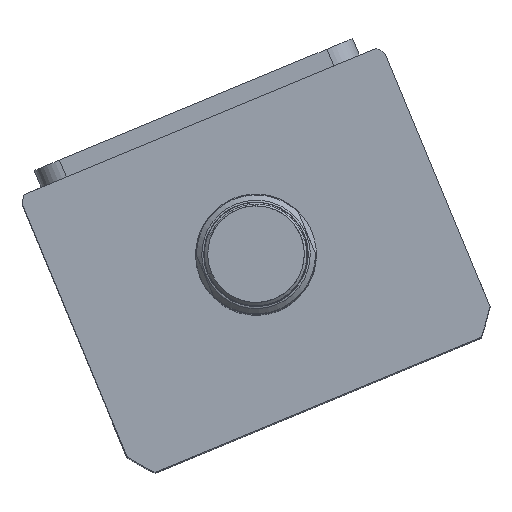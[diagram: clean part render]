
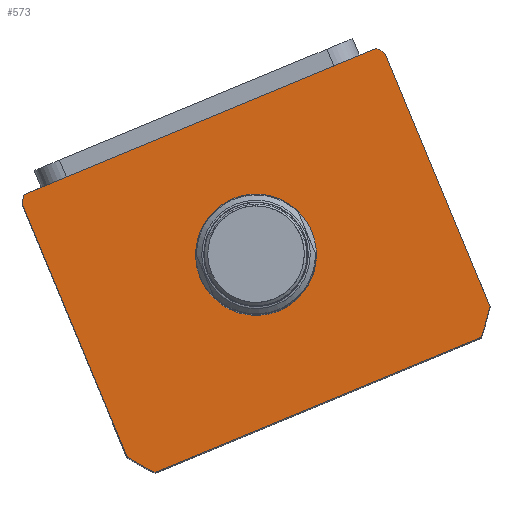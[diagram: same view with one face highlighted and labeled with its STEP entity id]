
A CAD part, top view. The second image highlights one B-rep face of the part: STEP entity #573.
In plain terms, the highlighted planar face has unit normal (0, 0, 1) as drawn and (0, 0, -1) by its records, which use the part's own axes.
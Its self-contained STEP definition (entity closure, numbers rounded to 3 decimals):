
#72 = CIRCLE ( 'NONE', #12226, 17.5 ) ;
#183 = ORIENTED_EDGE ( 'NONE', *, *, #2874, .F. ) ;
#414 = DIRECTION ( 'NONE',  ( 1., 0., 0. ) ) ;
#573 = ADVANCED_FACE ( 'NONE', ( #19785, #2505 ), #18434, .F. ) ;
#1056 = DIRECTION ( 'NONE',  ( 0., 0., 1. ) ) ;
#1151 = LINE ( 'NONE', #23161, #23412 ) ;
#1475 = CARTESIAN_POINT ( 'NONE',  ( 51.198, -106.497, 0. ) ) ;
#1848 = CARTESIAN_POINT ( 'NONE',  ( -57., -17.497, 0. ) ) ;
#1975 = AXIS2_PLACEMENT_3D ( 'NONE', #26232, #13344, #414 ) ;
#2034 = DIRECTION ( 'NONE',  ( 1., 0., 0. ) ) ;
#2067 = ORIENTED_EDGE ( 'NONE', *, *, #7216, .F. ) ;
#2505 = FACE_OUTER_BOUND ( 'NONE', #11405, .T. ) ;
#2874 = EDGE_CURVE ( 'NONE', #6851, #17642, #18730, .T. ) ;
#3166 = DIRECTION ( 'NONE',  ( 0., 0., 1. ) ) ;
#3249 = ORIENTED_EDGE ( 'NONE', *, *, #22426, .F. ) ;
#3480 = CIRCLE ( 'NONE', #10400, 69.5 ) ;
#3496 = DIRECTION ( 'NONE',  ( 0., 0., 1. ) ) ;
#3557 = DIRECTION ( 'NONE',  ( 0., 0., 1. ) ) ;
#4222 = CARTESIAN_POINT ( 'NONE',  ( -57., -17.497, 0. ) ) ;
#4376 = CIRCLE ( 'NONE', #13307, 69.5 ) ;
#6306 = DIRECTION ( 'NONE',  ( 0., 1., 0. ) ) ;
#6851 = VERTEX_POINT ( 'NONE', #9566 ) ;
#7015 = VERTEX_POINT ( 'NONE', #12147 ) ;
#7089 = VERTEX_POINT ( 'NONE', #8158 ) ;
#7216 = EDGE_CURVE ( 'NONE', #7015, #20944, #15865, .T. ) ;
#7728 = EDGE_LOOP ( 'NONE', ( #20285, #26881 ) ) ;
#8137 = CARTESIAN_POINT ( 'NONE',  ( 0., 0., 0. ) ) ;
#8158 = CARTESIAN_POINT ( 'NONE',  ( -51.198, -106.497, 0. ) ) ;
#8887 = CARTESIAN_POINT ( 'NONE',  ( 0., -59.497, 0. ) ) ;
#9092 = DIRECTION ( 'NONE',  ( 0., 0., 1. ) ) ;
#9446 = CARTESIAN_POINT ( 'NONE',  ( -55.374, -17.497, 0. ) ) ;
#9566 = CARTESIAN_POINT ( 'NONE',  ( 57., -99.262, 0. ) ) ;
#10130 = ORIENTED_EDGE ( 'NONE', *, *, #21595, .F. ) ;
#10169 = CARTESIAN_POINT ( 'NONE',  ( -17.5, -59.497, 0. ) ) ;
#10400 = AXIS2_PLACEMENT_3D ( 'NONE', #16535, #3557, #18707 ) ;
#10813 = AXIS2_PLACEMENT_3D ( 'NONE', #13998, #1056, #16181 ) ;
#11061 = DIRECTION ( 'NONE',  ( 1., 0., 0. ) ) ;
#11405 = EDGE_LOOP ( 'NONE', ( #24743, #183, #23986, #10130, #17971, #2067, #24713, #3249 ) ) ;
#11540 = VECTOR ( 'NONE', #14817, 1000. ) ;
#12147 = CARTESIAN_POINT ( 'NONE',  ( -57., -19.732, 0. ) ) ;
#12226 = AXIS2_PLACEMENT_3D ( 'NONE', #22105, #9092, #24245 ) ;
#12804 = CARTESIAN_POINT ( 'NONE',  ( 57., -19.732, 0. ) ) ;
#13307 = AXIS2_PLACEMENT_3D ( 'NONE', #16479, #3496, #18645 ) ;
#13315 = EDGE_CURVE ( 'NONE', #17642, #26977, #3480, .T. ) ;
#13344 = DIRECTION ( 'NONE',  ( 0., 0., 1. ) ) ;
#13998 = CARTESIAN_POINT ( 'NONE',  ( 0., -59.497, 0. ) ) ;
#14237 = VERTEX_POINT ( 'NONE', #1475 ) ;
#14514 = DIRECTION ( 'NONE',  ( 1., 0., 0. ) ) ;
#14654 = AXIS2_PLACEMENT_3D ( 'NONE', #8137, #3166, #2034 ) ;
#14817 = DIRECTION ( 'NONE',  ( -1., 0., 0. ) ) ;
#15436 = EDGE_CURVE ( 'NONE', #16660, #7015, #24712, .T. ) ;
#15865 = LINE ( 'NONE', #4222, #20929 ) ;
#16052 = AXIS2_PLACEMENT_3D ( 'NONE', #8887, #24035, #11061 ) ;
#16088 = CARTESIAN_POINT ( 'NONE',  ( 17.5, -59.497, 0. ) ) ;
#16181 = DIRECTION ( 'NONE',  ( 1., 0., 0. ) ) ;
#16479 = CARTESIAN_POINT ( 'NONE',  ( 0., -59.497, 0. ) ) ;
#16535 = CARTESIAN_POINT ( 'NONE',  ( 0., -59.497, 0. ) ) ;
#16660 = VERTEX_POINT ( 'NONE', #9446 ) ;
#16717 = CIRCLE ( 'NONE', #16052, 17.5 ) ;
#16925 = DIRECTION ( 'NONE',  ( 0., -1., 0. ) ) ;
#17382 = VECTOR ( 'NONE', #6306, 1000. ) ;
#17642 = VERTEX_POINT ( 'NONE', #12804 ) ;
#17971 = ORIENTED_EDGE ( 'NONE', *, *, #19870, .F. ) ;
#18049 = EDGE_CURVE ( 'NONE', #14237, #6851, #19304, .T. ) ;
#18434 = PLANE ( 'NONE',  #14654 ) ;
#18645 = DIRECTION ( 'NONE',  ( 1., 0., 0. ) ) ;
#18707 = DIRECTION ( 'NONE',  ( 1., 0., 0. ) ) ;
#18730 = LINE ( 'NONE', #23595, #17382 ) ;
#19081 = CARTESIAN_POINT ( 'NONE',  ( -57., -99.262, 0. ) ) ;
#19304 = CIRCLE ( 'NONE', #10813, 69.5 ) ;
#19785 = FACE_BOUND ( 'NONE', #7728, .T. ) ;
#19870 = EDGE_CURVE ( 'NONE', #20944, #7089, #4376, .T. ) ;
#20285 = ORIENTED_EDGE ( 'NONE', *, *, #25111, .T. ) ;
#20929 = VECTOR ( 'NONE', #16925, 1000. ) ;
#20944 = VERTEX_POINT ( 'NONE', #19081 ) ;
#21129 = EDGE_CURVE ( 'NONE', #21587, #26633, #16717, .T. ) ;
#21587 = VERTEX_POINT ( 'NONE', #10169 ) ;
#21595 = EDGE_CURVE ( 'NONE', #7089, #14237, #1151, .T. ) ;
#22105 = CARTESIAN_POINT ( 'NONE',  ( 0., -59.497, 0. ) ) ;
#22388 = LINE ( 'NONE', #1848, #11540 ) ;
#22426 = EDGE_CURVE ( 'NONE', #26977, #16660, #22388, .T. ) ;
#23161 = CARTESIAN_POINT ( 'NONE',  ( -57., -106.497, 0. ) ) ;
#23412 = VECTOR ( 'NONE', #14514, 1000. ) ;
#23595 = CARTESIAN_POINT ( 'NONE',  ( 57., -17.497, 0. ) ) ;
#23986 = ORIENTED_EDGE ( 'NONE', *, *, #18049, .F. ) ;
#24035 = DIRECTION ( 'NONE',  ( 0., 0., 1. ) ) ;
#24245 = DIRECTION ( 'NONE',  ( 1., 0., 0. ) ) ;
#24712 = CIRCLE ( 'NONE', #1975, 69.5 ) ;
#24713 = ORIENTED_EDGE ( 'NONE', *, *, #15436, .F. ) ;
#24743 = ORIENTED_EDGE ( 'NONE', *, *, #13315, .F. ) ;
#25111 = EDGE_CURVE ( 'NONE', #26633, #21587, #72, .T. ) ;
#25744 = CARTESIAN_POINT ( 'NONE',  ( 55.374, -17.497, 0. ) ) ;
#26232 = CARTESIAN_POINT ( 'NONE',  ( 0., -59.497, 0. ) ) ;
#26633 = VERTEX_POINT ( 'NONE', #16088 ) ;
#26881 = ORIENTED_EDGE ( 'NONE', *, *, #21129, .T. ) ;
#26977 = VERTEX_POINT ( 'NONE', #25744 ) ;
